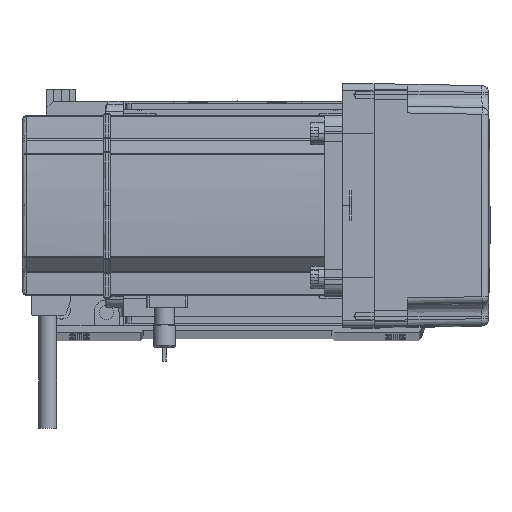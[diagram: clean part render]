
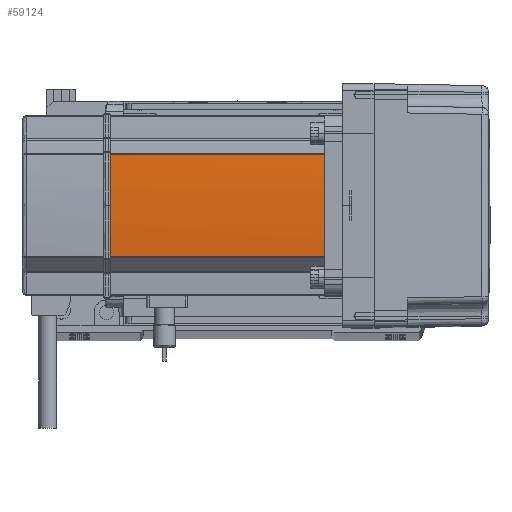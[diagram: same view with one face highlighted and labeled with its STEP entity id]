
A CAD part, top view. The second image highlights one B-rep face of the part: STEP entity #59124.
In plain terms, the highlighted cylindrical face has radius 270 mm (diameter 540 mm), a partial arc.
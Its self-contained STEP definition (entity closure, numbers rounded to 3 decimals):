
#505 = CARTESIAN_POINT ( 'NONE',  ( 230., 0., 134. ) ) ;
#532 = ORIENTED_EDGE ( 'NONE', *, *, #17189, .F. ) ;
#592 = DIRECTION ( 'NONE',  ( 0., 0., -1. ) ) ;
#2126 = DIRECTION ( 'NONE',  ( 0., 0., -1. ) ) ;
#2741 = CARTESIAN_POINT ( 'NONE',  ( -39.042, -22.724, 134. ) ) ;
#2780 = VERTEX_POINT ( 'NONE', #19803 ) ;
#4183 = VECTOR ( 'NONE', #38345, 1000. ) ;
#4479 = CARTESIAN_POINT ( 'NONE',  ( -39.042, -22.724, 0. ) ) ;
#5190 = VERTEX_POINT ( 'NONE', #8215 ) ;
#5294 = DIRECTION ( 'NONE',  ( 0., 0., -1. ) ) ;
#5433 = EDGE_CURVE ( 'NONE', #2780, #27876, #24213, .T. ) ;
#5783 = ORIENTED_EDGE ( 'NONE', *, *, #49338, .T. ) ;
#7146 = CARTESIAN_POINT ( 'NONE',  ( -39.042, 22.724, 0. ) ) ;
#8066 = ORIENTED_EDGE ( 'NONE', *, *, #54927, .T. ) ;
#8215 = CARTESIAN_POINT ( 'NONE',  ( -39.042, -22.724, 39. ) ) ;
#9954 = AXIS2_PLACEMENT_3D ( 'NONE', #505, #5294, #52363 ) ;
#10401 = AXIS2_PLACEMENT_3D ( 'NONE', #53480, #592, #38402 ) ;
#10548 = CIRCLE ( 'NONE', #10401, 270. ) ;
#10813 = CARTESIAN_POINT ( 'NONE',  ( -39.042, 22.724, 134. ) ) ;
#10897 = LINE ( 'NONE', #4479, #4183 ) ;
#17189 = EDGE_CURVE ( 'NONE', #5190, #54434, #10548, .T. ) ;
#19803 = CARTESIAN_POINT ( 'NONE',  ( -40., 0., 134. ) ) ;
#20746 = DIRECTION ( 'NONE',  ( 0., 0., 1. ) ) ;
#21519 = ORIENTED_EDGE ( 'NONE', *, *, #53836, .T. ) ;
#23572 = FACE_OUTER_BOUND ( 'NONE', #28886, .T. ) ;
#24213 = CIRCLE ( 'NONE', #38869, 270. ) ;
#27876 = VERTEX_POINT ( 'NONE', #10813 ) ;
#28886 = EDGE_LOOP ( 'NONE', ( #8066, #55786, #21519, #532, #5783 ) ) ;
#30144 = CARTESIAN_POINT ( 'NONE',  ( 230., 0., 0. ) ) ;
#33544 = CARTESIAN_POINT ( 'NONE',  ( -39.042, 22.724, 39. ) ) ;
#35364 = CARTESIAN_POINT ( 'NONE',  ( 230., 0., 134. ) ) ;
#35780 = DIRECTION ( 'NONE',  ( 1., 0., 0. ) ) ;
#38345 = DIRECTION ( 'NONE',  ( 0., 0., 1. ) ) ;
#38402 = DIRECTION ( 'NONE',  ( 1., 0., 0. ) ) ;
#38869 = AXIS2_PLACEMENT_3D ( 'NONE', #35364, #59241, #35780 ) ;
#40182 = AXIS2_PLACEMENT_3D ( 'NONE', #30144, #20746, #50032 ) ;
#45553 = CIRCLE ( 'NONE', #9954, 270. ) ;
#45724 = VECTOR ( 'NONE', #2126, 1000. ) ;
#47212 = VERTEX_POINT ( 'NONE', #2741 ) ;
#49338 = EDGE_CURVE ( 'NONE', #5190, #47212, #10897, .T. ) ;
#50032 = DIRECTION ( 'NONE',  ( 1., 0., 0. ) ) ;
#52363 = DIRECTION ( 'NONE',  ( 1., 0., 0. ) ) ;
#53480 = CARTESIAN_POINT ( 'NONE',  ( 230., 0., 39. ) ) ;
#53836 = EDGE_CURVE ( 'NONE', #27876, #54434, #56180, .T. ) ;
#54434 = VERTEX_POINT ( 'NONE', #33544 ) ;
#54927 = EDGE_CURVE ( 'NONE', #47212, #2780, #45553, .T. ) ;
#55786 = ORIENTED_EDGE ( 'NONE', *, *, #5433, .T. ) ;
#56180 = LINE ( 'NONE', #7146, #45724 ) ;
#59124 = ADVANCED_FACE ( 'NONE', ( #23572 ), #61699, .T. ) ;
#59241 = DIRECTION ( 'NONE',  ( 0., 0., -1. ) ) ;
#61699 = CYLINDRICAL_SURFACE ( 'NONE', #40182, 270. ) ;
